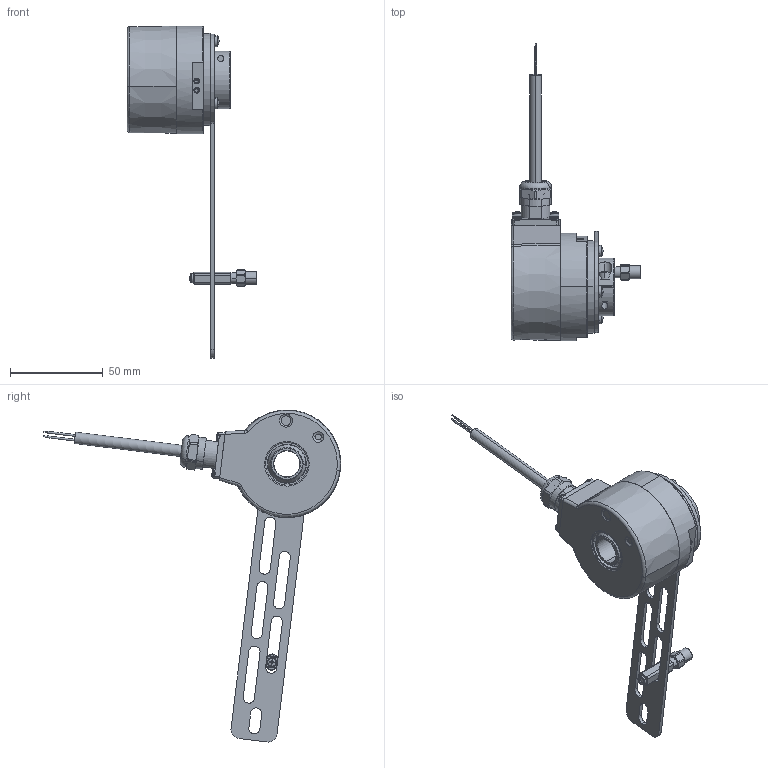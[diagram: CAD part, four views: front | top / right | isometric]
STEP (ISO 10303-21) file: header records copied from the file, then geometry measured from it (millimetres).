
FILE_DESCRIPTION (( 'STEP AP214' ), '1' );
FILE_NAME ('5834SIL.A5X2.XXXX.STEP', '2010-08-13T08:04:27', ( 'admin' ), ( 'Fritz Kübler GmbH' ), 'SwSTEP 2.0', 'SolidWorks 2009', '' );
FILE_SCHEMA (( 'AUTOMOTIVE_DESIGN' ));
Length unit declared in the file: millimetre
Products named in the file (1): 5834SIL.A5X2.XXXX
Bounding box: 70 x 160.21 x 178.83 mm (x, y, z)
Surface area: 34669.6 mm2 (no closed solid volume)
Topology: 0 solids, 24 shells, 426 faces, 1209 edges, 807 vertices
Faces by surface type: plane 171, cylinder 133, cone 76, torus 26, sphere 16, bspline 4
Entity records: 19499 total; most frequent: CARTESIAN_POINT 3511, DIRECTION 2527, ORIENTED_EDGE 2122, EDGE_CURVE 1209, AXIS2_PLACEMENT_3D 993, VERTEX_POINT 807, CIRCLE 570, VECTOR 541
